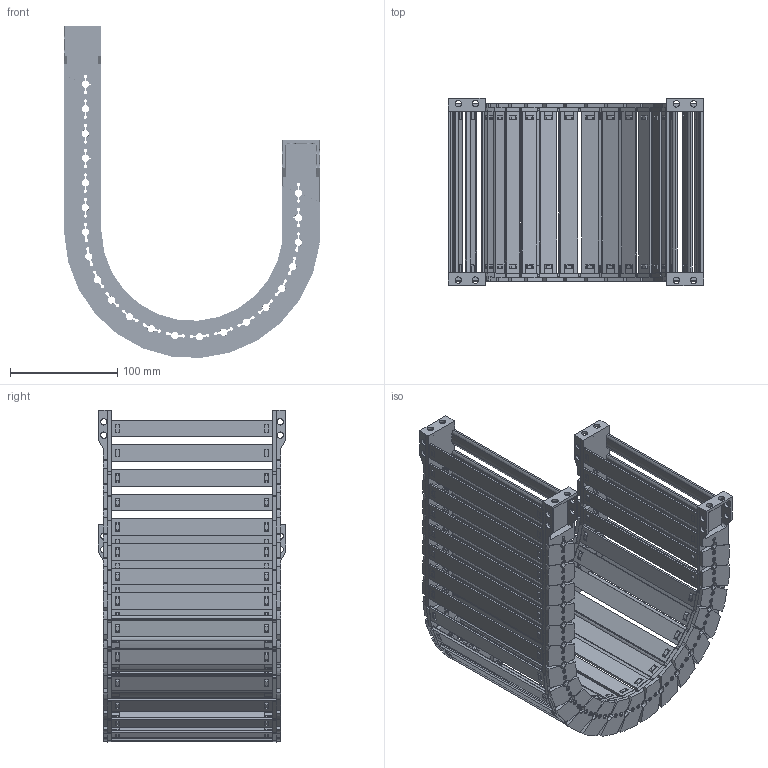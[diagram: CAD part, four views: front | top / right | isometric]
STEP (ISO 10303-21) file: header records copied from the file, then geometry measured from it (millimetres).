
FILE_DESCRIPTION(/* description */ (''),/* implementation_level */ '2;1');
FILE_NAME(/* name */ 'JY28-150-R100.stp',/* time_stamp */ '2026-06-03T18:28:56+08:00',/* author */ (''),/* organization */ (''),/* preprocessor_version */ 'ST-DEVELOPER v19.4',/* originating_system */ 'SIEMENS PLM Software NX2306.5001',/* authorisation */ '');
FILE_SCHEMA (('AP203_CONFIGURATION_CONTROLLED_3D_DESIGN_OF_MECHANICAL_PARTS_AND_ASSEMBLIES_MIM_LF { 1 0 10303 403 2 1 2}'));
Products named in the file (1): 简化图纸_objects
Bounding box: 238.21 x 174.5 x 309.61 mm (x, y, z)
Volume: 629763 mm3; surface area: 451764.4 mm2
Topology: 86 solids, 86 shells, 7166 faces, 20384 edges, 13324 vertices
Faces by surface type: plane 4694, cone 1300, cylinder 1128, bspline 42, torus 2
Full cylindrical faces by diameter (mm): 6 x24
Entity records: 242416 total; most frequent: CARTESIAN_POINT 53852, ORIENTED_EDGE 40676, DIRECTION 38192, EDGE_CURVE 20338, LINE 13462, VECTOR 13462, VERTEX_POINT 13302, AXIS2_PLACEMENT_3D 12365
